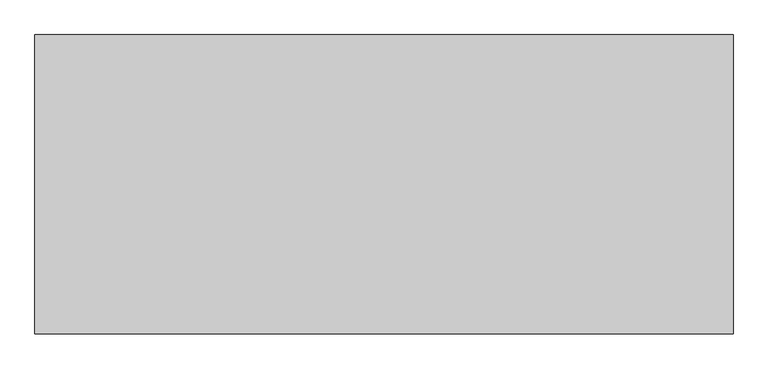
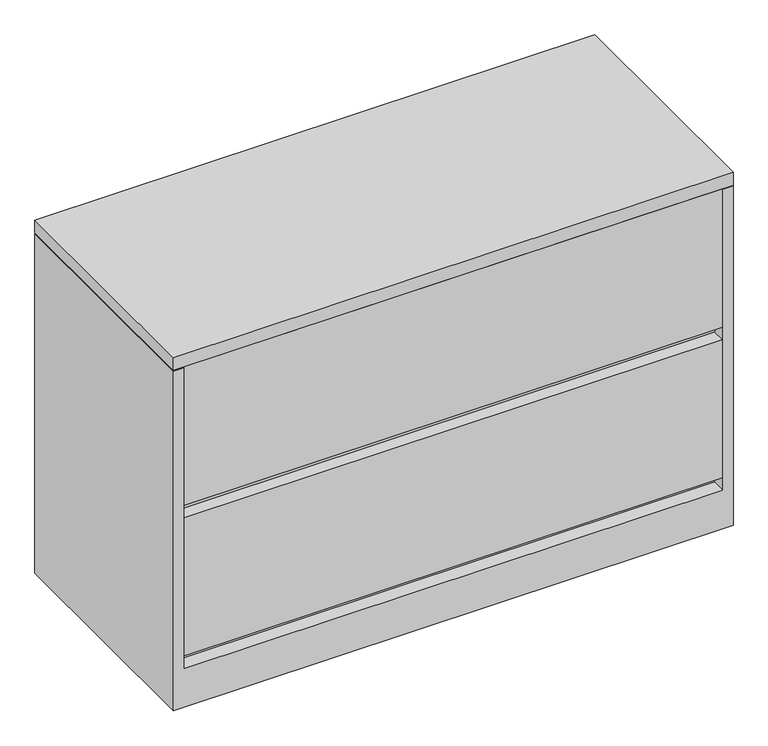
"""IFC4 building model written with IfcOpenShell, lengths in millimetres: furniture geometry, Steelcase - 900 Series - Storage - Lateral File With Roll Out Shelf - Flush Steel : 28H x 42W."""

from ifc_helpers import new_model, si_unit, frame, origin, place, context, project, spatial, polyline, outline, extrude, faceted_brep, source, transform, mapped, element, save


def furniture_f8c125bd(model_context):
    return source(origin(), model_context, "Body", "SolidModel", [
        faceted_brep([(1047.4960184, -25.2721219, 684.276), (1047.4960184, -457.2, 684.276), (1066.8, -457.2, 684.276), (1066.8, 0.0, 684.276), (0.0, 0.0, 684.276), (0.0, -457.2, 684.276), (19.3039998, -457.2, 684.276), (19.3039998, -25.2721219, 684.276), (0.0, -457.2, 0.0), (0.0, 0.0, 0.0), (1066.8, 0.0, 0.0), (1066.8, -457.2, 0.0), (1047.4960184, -25.2721219, 406.7048), (1047.4960184, -431.800255, 406.7048), (1047.4960184, -431.800255, 381.254), (1047.4960184, -25.2721219, 381.254), (1047.4960184, -25.2721219, 103.3780013), (1047.4960184, -430.275847, 103.3780013), (1047.4960184, -430.275847, 77.9779983), (1047.4960184, -457.2, 77.9779983), (19.3039998, -457.2, 77.9779983), (19.3039998, -430.275847, 77.9779983), (19.3039998, -430.275847, 103.3780013), (19.3039998, -25.2721219, 103.3780013), (19.3039998, -25.2721219, 381.254), (19.3039998, -431.800255, 381.254), (19.3039998, -431.800255, 406.7048), (19.3039998, -25.2721219, 406.7048)], [[[0, 1, 2, 3, 4, 5, 6, 7]], [[8, 9, 10, 11]], [[1, 0, 12, 13, 14, 15, 16, 17, 18, 19]], [[2, 1, 19, 20, 6, 5, 8, 11]], [[3, 2, 11, 10]], [[4, 3, 10, 9]], [[5, 4, 9, 8]], [[7, 6, 20, 21, 22, 23, 24, 25, 26, 27]], [[0, 7, 27, 12]], [[16, 15, 24, 23]], [[18, 21, 20, 19]], [[22, 17, 16, 23]], [[21, 18, 17, 22]], [[26, 13, 12, 27]], [[13, 26, 25, 14]], [[14, 25, 24, 15]]]),
        faceted_brep([(1066.8, 0.0, 711.2), (0.0, 0.0, 711.2), (0.0, -457.2, 711.2), (1066.8, -457.2, 711.2), (1066.8, 0.0, 685.7999516), (1066.8, -457.2, 685.7999516), (0.0, -457.2, 685.7999516), (0.0, 0.0, 685.7999516), (1047.4960184, -25.2721219, 685.7999516), (20.8289612, -25.2721219, 685.7999516), (20.8289612, -415.9241219, 685.7999516), (1047.4960184, -415.9241219, 685.7999516), (1047.4960184, -25.2721219, 684.276), (1047.4960184, -415.9241219, 684.276), (20.8289612, -415.9241219, 684.276), (20.8289612, -25.2721219, 684.276)], [[[0, 1, 2, 3]], [[4, 5, 6, 7], [8, 9, 10, 11]], [[1, 0, 4, 7]], [[2, 1, 7, 6]], [[3, 2, 6, 5]], [[0, 3, 5, 4]], [[12, 13, 14, 15]], [[12, 15, 9, 8]], [[15, 14, 10, 9]], [[14, 13, 11, 10]], [[13, 12, 8, 11]]]),
        extrude(outline(polyline([(1045.9722015, -457.2), (20.8289612, -457.2), (20.8289612, -431.800255), (1045.9722015, -431.800255), (1045.9722015, -457.2)])), frame((0.0, 0.0, 103.3780013), z_axis=(0.0, 0.0, 1.0), x_axis=(1.0, 0.0, 0.0)), (0.0, 0.0, 1.0), 277.8759987),
        extrude(outline(polyline([(1045.9722015, -457.2), (20.8289612, -457.2), (20.8289612, -431.800255), (1045.9722015, -431.800255), (1045.9722015, -457.2)])), frame((0.0, 0.0, 406.7048), z_axis=(0.0, 0.0, 1.0), x_axis=(1.0, 0.0, 0.0)), (0.0, 0.0, 1.0), 279.4),
    ])


if __name__ == "__main__":
    model = new_model("IFC4")
    model_context = context("Model", 3, world=origin())
    ifc_project = project(units=[si_unit("LENGTHUNIT", "METRE", prefix="MILLI")], contexts=[model_context])
    site = spatial("IfcSite", under=ifc_project)
    building = spatial("IfcBuilding", under=site)
    placement = place(None, origin())
    furniture_shape = furniture_f8c125bd(model_context)
    element("IfcFurniture", 1, ObjectType="Steelcase - 900 Series - Storage - Lateral File With Roll Out Shelf - Flush Steel : 28H x 42W", at=placement, inside=building, context=model_context, shape_type="MappedRepresentation", body=[
        mapped(furniture_shape, transform((0.0, 0.0, 0.0), x_axis=(1.0, 0.0, 0.0), y_axis=(0.0, 1.0, 0.0), z_axis=(0.0, 0.0, 1.0))),
    ])
    save(model, "model.ifc")
